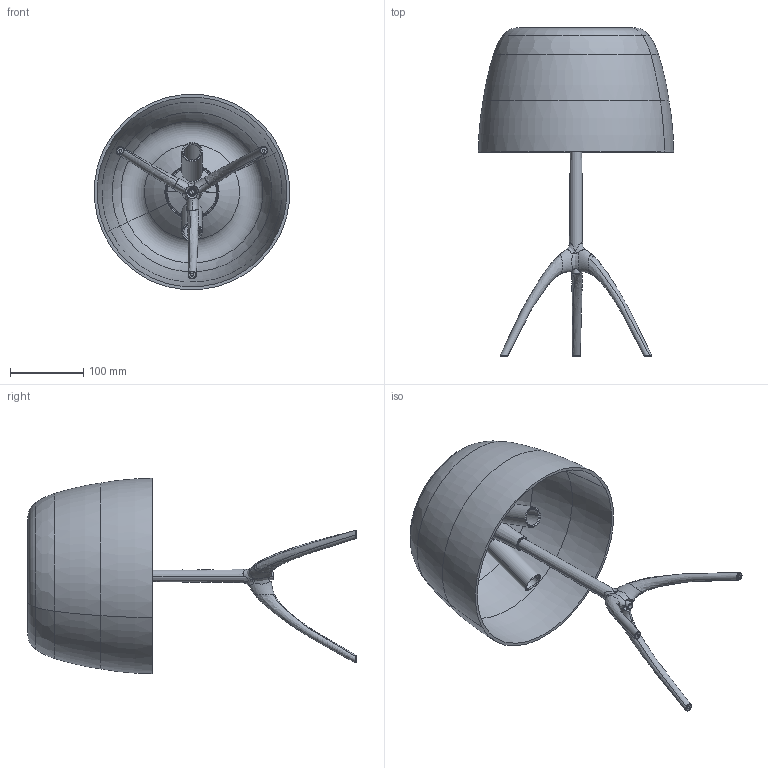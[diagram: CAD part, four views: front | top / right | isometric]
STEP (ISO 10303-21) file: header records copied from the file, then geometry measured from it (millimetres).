
FILE_DESCRIPTION (( 'STEP AP214' ), '1' );
FILE_NAME ('026_GRANDE_T_PL_3D.STEP', '2021-05-05T07:06:39', ( '' ), ( '' ), 'SwSTEP 2.0', 'SolidWorks 2021', '' );
FILE_SCHEMA (( 'AUTOMOTIVE_DESIGN' ));
Length unit declared in the file: millimetre
Products named in the file (1): 026_GRANDE_T_PL_3D
Bounding box: 266.84 x 449.12 x 266.84 mm (x, y, z)
Volume: 813758.1 mm3; surface area: 432371.9 mm2
Topology: 7 solids, 7 shells, 230 faces, 520 edges, 315 vertices
Faces by surface type: torus 60, cylinder 57, cone 48, plane 30, bspline 24, sphere 11
Entity records: 15029 total; most frequent: CARTESIAN_POINT 7273, DIRECTION 1116, ORIENTED_EDGE 1040, EDGE_CURVE 520, AXIS2_PLACEMENT_3D 503, VERTEX_POINT 315, CIRCLE 296, EDGE_LOOP 269
